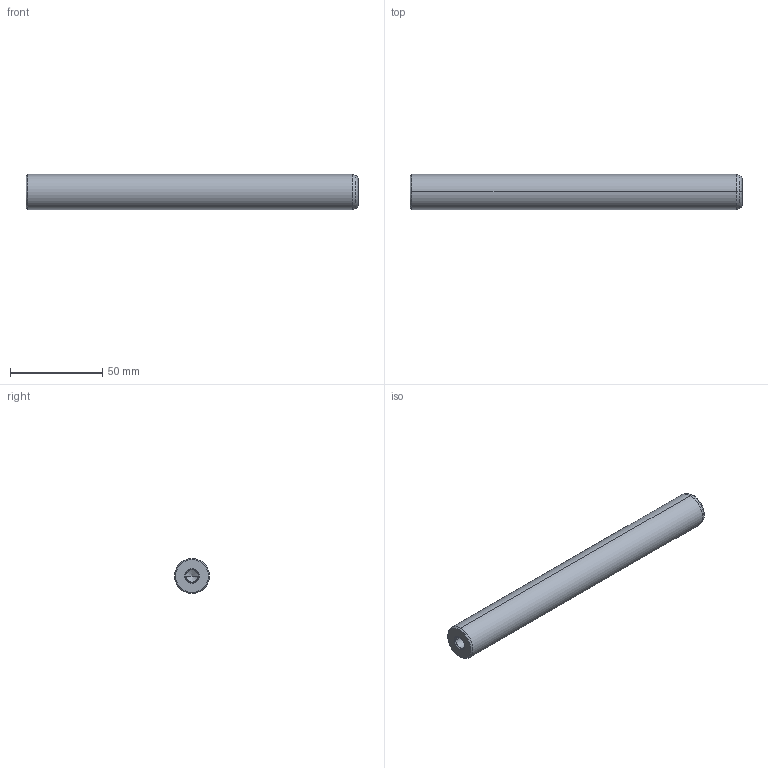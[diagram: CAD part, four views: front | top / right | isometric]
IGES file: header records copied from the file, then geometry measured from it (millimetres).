
Start section: START RECORD GO HERE.
Global section: file name: 720-19x180.igs; native system: DASSAULT SYSTEMES CATIA V5 R20 - www.3ds.com; preprocessor: CATIA Version 5 Release 20 ; author: Utente; organization: NB04-ASUS; date: 20210101.140621; units: millimetre
Bounding box: 180 x 19 x 19 mm (x, y, z)
Surface area: 12209.5 mm2 (no closed solid volume)
Topology: 0 solids, 0 shells, 22 faces, 108 edges, 104 vertices
Faces by surface type: revolution 20, plane 2
